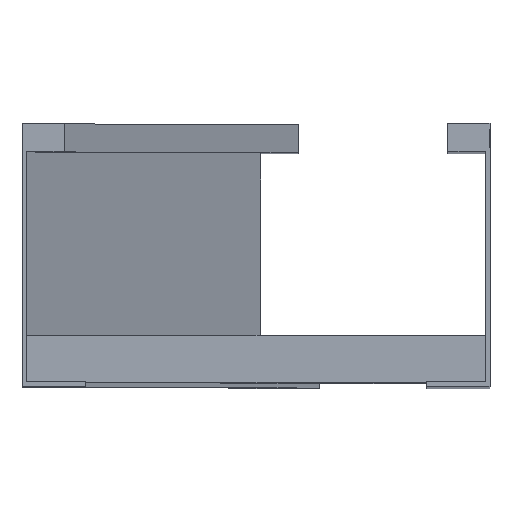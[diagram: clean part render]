
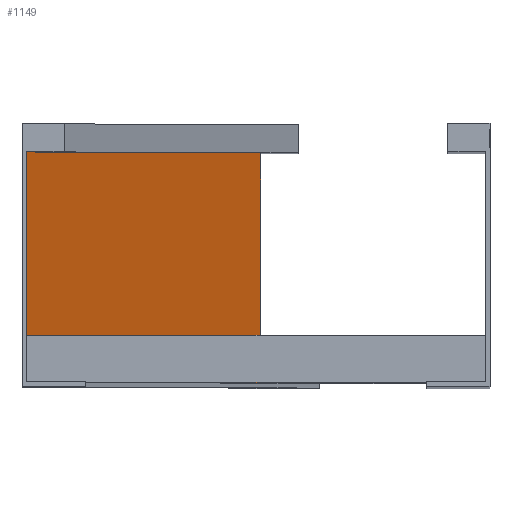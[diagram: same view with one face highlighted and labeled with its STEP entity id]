
A CAD part, top view. The second image highlights one B-rep face of the part: STEP entity #1149.
In plain terms, the highlighted planar face has unit normal (0.923, 0, 0.385).
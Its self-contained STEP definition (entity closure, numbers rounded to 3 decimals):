
#185 = VERTEX_POINT ( 'NONE', #3573 ) ;
#310 = DIRECTION ( 'NONE',  ( 0., -1., 0. ) ) ;
#431 = VECTOR ( 'NONE', #498, 1000. ) ;
#464 = CARTESIAN_POINT ( 'NONE',  ( 1.846, 2., -179.231 ) ) ;
#498 = DIRECTION ( 'NONE',  ( 0., -1., 0. ) ) ;
#591 = LINE ( 'NONE', #2826, #2609 ) ;
#684 = VECTOR ( 'NONE', #1933, 1000. ) ;
#861 = LINE ( 'NONE', #3006, #431 ) ;
#865 = CARTESIAN_POINT ( 'NONE',  ( 102., 2., -419.6 ) ) ;
#1050 = DIRECTION ( 'NONE',  ( -0.923, 0., -0.385 ) ) ;
#1111 = EDGE_CURVE ( 'NONE', #1639, #1349, #2151, .T. ) ;
#1149 = ADVANCED_FACE ( 'NONE', ( #2420 ), #1286, .F. ) ;
#1286 = PLANE ( 'NONE',  #3292 ) ;
#1313 = ORIENTED_EDGE ( 'NONE', *, *, #2402, .F. ) ;
#1349 = VERTEX_POINT ( 'NONE', #865 ) ;
#1559 = CARTESIAN_POINT ( 'NONE',  ( 1.846, 100.5, -179.231 ) ) ;
#1639 = VERTEX_POINT ( 'NONE', #2958 ) ;
#1785 = CARTESIAN_POINT ( 'NONE',  ( 102., 100.5, -419.6 ) ) ;
#1933 = DIRECTION ( 'NONE',  ( 0.385, 0., -0.923 ) ) ;
#1953 = VECTOR ( 'NONE', #3246, 1000. ) ;
#2151 = LINE ( 'NONE', #464, #1953 ) ;
#2259 = EDGE_CURVE ( 'NONE', #185, #1639, #861, .T. ) ;
#2402 = EDGE_CURVE ( 'NONE', #3084, #1349, #591, .T. ) ;
#2420 = FACE_OUTER_BOUND ( 'NONE', #3005, .T. ) ;
#2547 = ORIENTED_EDGE ( 'NONE', *, *, #2259, .T. ) ;
#2609 = VECTOR ( 'NONE', #310, 1000. ) ;
#2826 = CARTESIAN_POINT ( 'NONE',  ( 102., 100.5, -419.6 ) ) ;
#2848 = ORIENTED_EDGE ( 'NONE', *, *, #1111, .T. ) ;
#2893 = ORIENTED_EDGE ( 'NONE', *, *, #2929, .F. ) ;
#2929 = EDGE_CURVE ( 'NONE', #185, #3084, #3599, .T. ) ;
#2958 = CARTESIAN_POINT ( 'NONE',  ( 2., 2., -179.6 ) ) ;
#3005 = EDGE_LOOP ( 'NONE', ( #2893, #2547, #2848, #1313 ) ) ;
#3006 = CARTESIAN_POINT ( 'NONE',  ( 2., 100.5, -179.6 ) ) ;
#3084 = VERTEX_POINT ( 'NONE', #1785 ) ;
#3246 = DIRECTION ( 'NONE',  ( 0.385, 0., -0.923 ) ) ;
#3292 = AXIS2_PLACEMENT_3D ( 'NONE', #1559, #1050, #3558 ) ;
#3341 = CARTESIAN_POINT ( 'NONE',  ( 1.846, 100.5, -179.231 ) ) ;
#3558 = DIRECTION ( 'NONE',  ( -0.385, 0., 0.923 ) ) ;
#3573 = CARTESIAN_POINT ( 'NONE',  ( 2., 100.5, -179.6 ) ) ;
#3599 = LINE ( 'NONE', #3341, #684 ) ;
